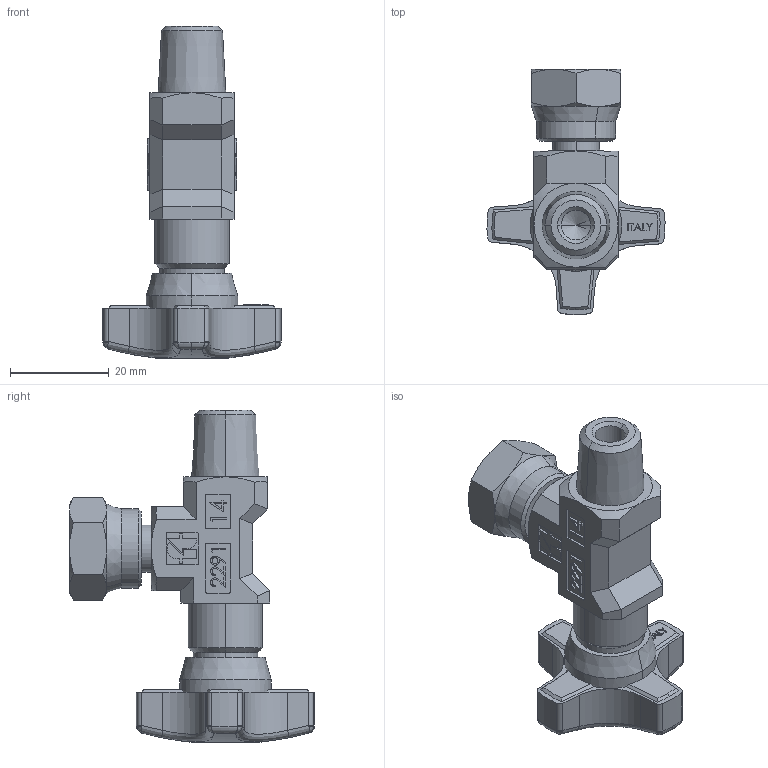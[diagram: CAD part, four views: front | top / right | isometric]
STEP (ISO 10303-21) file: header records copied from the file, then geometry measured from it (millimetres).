
FILE_DESCRIPTION (( 'STEP AP214' ), '1' );
FILE_NAME ('FT2291-14.STEP', '2012-05-24T07:41:21', ( '' ), ( '' ), 'SwSTEP 2.0', 'SolidWorks 2010', '' );
FILE_SCHEMA (( 'AUTOMOTIVE_DESIGN' ));
Length unit declared in the file: millimetre
Products named in the file (1): FT2291-14
Bounding box: 35.97 x 49.5 x 67.08 mm (x, y, z)
Volume: 19656.7 mm3; surface area: 9517.1 mm2
Topology: 4 solids, 4 shells, 520 faces, 1314 edges, 833 vertices
Faces by surface type: plane 311, cylinder 84, cone 63, bspline 51, torus 9, sphere 2
Entity records: 23479 total; most frequent: CARTESIAN_POINT 5559, ORIENTED_EDGE 2604, DIRECTION 2350, EDGE_CURVE 1302, LINE 842, VECTOR 842, VERTEX_POINT 833, AXIS2_PLACEMENT_3D 754
